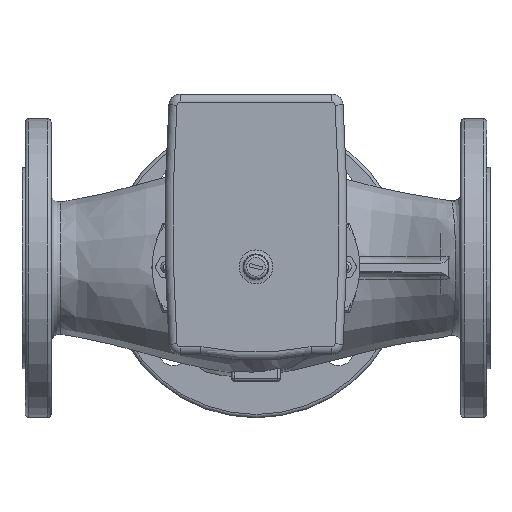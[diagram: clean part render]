
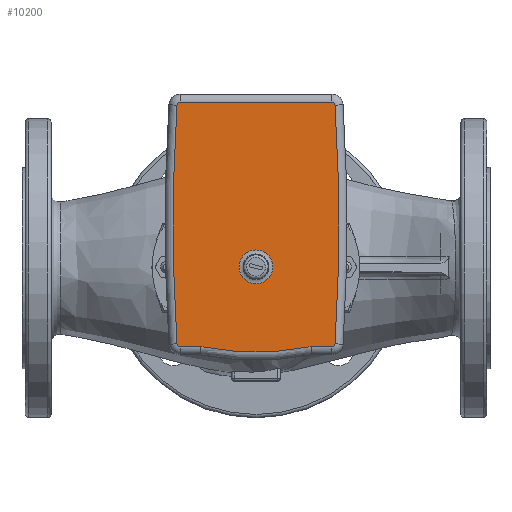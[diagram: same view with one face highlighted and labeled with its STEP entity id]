
A CAD part, top view. The second image highlights one B-rep face of the part: STEP entity #10200.
In plain terms, the highlighted planar face has unit normal (0, 0, 1).
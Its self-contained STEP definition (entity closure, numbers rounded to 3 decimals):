
#387=PLANE('',#14744);
#848=LINE('',#25015,#1432);
#849=LINE('',#25019,#1433);
#850=LINE('',#25027,#1434);
#1432=VECTOR('',#16763,1000.);
#1433=VECTOR('',#16766,1000.);
#1434=VECTOR('',#16773,1000.);
#2146=CIRCLE('',#14743,10.521);
#2147=CIRCLE('',#14745,1.964);
#2148=CIRCLE('',#14746,169.964);
#2149=CIRCLE('',#14747,1.964);
#2150=CIRCLE('',#14748,1096.964);
#2151=CIRCLE('',#14749,1.964);
#2152=CIRCLE('',#14750,1.964);
#2153=CIRCLE('',#14751,1096.964);
#3783=ORIENTED_EDGE('',*,*,#6014,.T.);
#3784=ORIENTED_EDGE('',*,*,#6015,.T.);
#3785=ORIENTED_EDGE('',*,*,#6016,.T.);
#3786=ORIENTED_EDGE('',*,*,#6017,.T.);
#3787=ORIENTED_EDGE('',*,*,#6018,.T.);
#3788=ORIENTED_EDGE('',*,*,#6019,.T.);
#3789=ORIENTED_EDGE('',*,*,#6020,.T.);
#3790=ORIENTED_EDGE('',*,*,#6021,.T.);
#3791=ORIENTED_EDGE('',*,*,#6022,.T.);
#3792=ORIENTED_EDGE('',*,*,#6023,.T.);
#3793=ORIENTED_EDGE('',*,*,#6024,.T.);
#6014=EDGE_CURVE('',#7268,#7268,#2146,.T.);
#6015=EDGE_CURVE('',#7269,#7270,#2147,.F.);
#6016=EDGE_CURVE('',#7270,#7271,#848,.F.);
#6017=EDGE_CURVE('',#7271,#7272,#2148,.F.);
#6018=EDGE_CURVE('',#7272,#7273,#849,.F.);
#6019=EDGE_CURVE('',#7273,#7274,#2149,.F.);
#6020=EDGE_CURVE('',#7274,#7275,#2150,.F.);
#6021=EDGE_CURVE('',#7275,#7276,#2151,.F.);
#6022=EDGE_CURVE('',#7276,#7277,#850,.F.);
#6023=EDGE_CURVE('',#7277,#7278,#2152,.F.);
#6024=EDGE_CURVE('',#7278,#7269,#2153,.F.);
#7268=VERTEX_POINT('',#25010);
#7269=VERTEX_POINT('',#25013);
#7270=VERTEX_POINT('',#25014);
#7271=VERTEX_POINT('',#25016);
#7272=VERTEX_POINT('',#25018);
#7273=VERTEX_POINT('',#25020);
#7274=VERTEX_POINT('',#25022);
#7275=VERTEX_POINT('',#25024);
#7276=VERTEX_POINT('',#25026);
#7277=VERTEX_POINT('',#25028);
#7278=VERTEX_POINT('',#25030);
#8542=EDGE_LOOP('',(#3783));
#8543=EDGE_LOOP('',(#3784,#3785,#3786,#3787,#3788,#3789,#3790,#3791,#3792,
#3793));
#9432=FACE_BOUND('',#8542,.T.);
#9433=FACE_BOUND('',#8543,.T.);
#10200=ADVANCED_FACE('',(#9432,#9433),#387,.F.);
#14743=AXIS2_PLACEMENT_3D('',#25009,#16757,#16758);
#14744=AXIS2_PLACEMENT_3D('',#25011,#16759,#16760);
#14745=AXIS2_PLACEMENT_3D('',#25012,#16761,#16762);
#14746=AXIS2_PLACEMENT_3D('',#25017,#16764,#16765);
#14747=AXIS2_PLACEMENT_3D('',#25021,#16767,#16768);
#14748=AXIS2_PLACEMENT_3D('',#25023,#16769,#16770);
#14749=AXIS2_PLACEMENT_3D('',#25025,#16771,#16772);
#14750=AXIS2_PLACEMENT_3D('',#25029,#16774,#16775);
#14751=AXIS2_PLACEMENT_3D('',#25031,#16776,#16777);
#16757=DIRECTION('',(0.,0.,-1.));
#16758=DIRECTION('',(-1.,0.,0.));
#16759=DIRECTION('',(0.,0.,-1.));
#16760=DIRECTION('',(-1.,0.,0.));
#16761=DIRECTION('',(0.,0.,-1.));
#16762=DIRECTION('',(-1.,0.,0.));
#16763=DIRECTION('',(0.,1.,0.));
#16764=DIRECTION('',(0.,0.,-1.));
#16765=DIRECTION('',(-1.,0.,0.));
#16766=DIRECTION('',(0.,1.,0.));
#16767=DIRECTION('',(0.,0.,-1.));
#16768=DIRECTION('',(-1.,0.,0.));
#16769=DIRECTION('',(0.,0.,-1.));
#16770=DIRECTION('',(-1.,0.,0.));
#16771=DIRECTION('',(0.,0.,-1.));
#16772=DIRECTION('',(-1.,0.,0.));
#16773=DIRECTION('',(0.,-1.,0.));
#16774=DIRECTION('',(0.,0.,-1.));
#16775=DIRECTION('',(-1.,0.,0.));
#16776=DIRECTION('',(0.,0.,-1.));
#16777=DIRECTION('',(-1.,0.,0.));
#25009=CARTESIAN_POINT('',(0.,0.,109.084));
#25010=CARTESIAN_POINT('',(-10.521,0.,109.084));
#25011=CARTESIAN_POINT('',(0.,0.,109.084));
#25012=CARTESIAN_POINT('',(-47.508,47.,109.084));
#25013=CARTESIAN_POINT('',(-47.64,48.96,109.084));
#25014=CARTESIAN_POINT('',(-49.472,47.,109.084));
#25015=CARTESIAN_POINT('',(-49.472,34.599,109.084));
#25016=CARTESIAN_POINT('',(-49.472,34.096,109.084));
#25017=CARTESIAN_POINT('',(117.037,0.,109.084));
#25018=CARTESIAN_POINT('',(-49.472,-34.096,109.084));
#25019=CARTESIAN_POINT('',(-49.472,-47.,109.084));
#25020=CARTESIAN_POINT('',(-49.472,-47.,109.084));
#25021=CARTESIAN_POINT('',(-47.508,-47.,109.084));
#25022=CARTESIAN_POINT('',(-47.64,-48.96,109.084));
#25023=CARTESIAN_POINT('',(26.246,1045.513,109.084));
#25024=CARTESIAN_POINT('',(100.132,-48.96,109.084));
#25025=CARTESIAN_POINT('',(100.,-47.,109.084));
#25026=CARTESIAN_POINT('',(101.964,-47.,109.084));
#25027=CARTESIAN_POINT('',(101.964,47.,109.084));
#25028=CARTESIAN_POINT('',(101.964,47.,109.084));
#25029=CARTESIAN_POINT('',(100.,47.,109.084));
#25030=CARTESIAN_POINT('',(100.132,48.96,109.084));
#25031=CARTESIAN_POINT('',(26.246,-1045.513,109.084));
